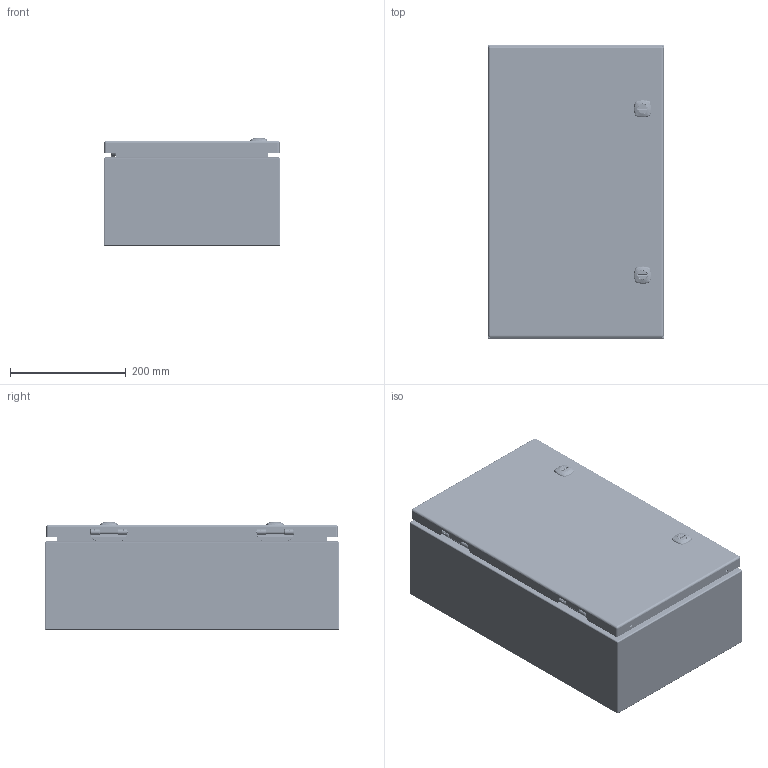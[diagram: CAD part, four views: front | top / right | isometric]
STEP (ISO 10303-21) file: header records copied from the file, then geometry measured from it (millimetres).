
FILE_DESCRIPTION(/* description */ ('5412ES 20" x 12" x 6" Assembly'),/* implementation_level */ '2;1');
FILE_NAME(/* name */ 'C:\Vault_Workspace\Inventor_Dwg\BoxCad\Result\5412ESB201206\e-mail\3D\5412ESB201206.stp',/* time_stamp */ '2022-03-11T15:10:08-05:00',/* author */ ('BoxCad'),/* organization */ (''),/* preprocessor_version */ 'ST-DEVELOPER v18.1',/* originating_system */ 'Autodesk Inventor 2020',/* authorisation */ '');
FILE_SCHEMA (('AUTOMOTIVE_DESIGN { 1 0 10303 214 3 1 1 }'));
Products named in the file (43): 5412ESB201206; 5412ESB201206B; 5412ESB201206B-P; STK-Q-16005; STUD_M6 x 16mm; STK-Q-07610; 881SP2012G; 881SP2012G-P; STK-Q-07310; 5412ESB201206C; 5412ESB201206C-P; 5412ESB201206G; STK-K-09800; STK-K-09800-2; STK-Q-33014; STK-Q-90398; STK-Q-40095; STK-Q-63410; STK-Q-16055; STK-Q-46020-20; STK-Q-07220-1; STK-Q-07220-2; STK-Q-07220-3; STK-Q-07220-4; STK-Q-07220-A; STK-Q-07220-B; STK-P-03820R; STK-S-00100; STK-A-880SCQ4-SL-1; STK-A-880SCQ4-SL-2; STK-Q-78110; STK-Q-78120; STK-Q-78145; STK-Q-03200; STK-Q-78125; STK-Q-78141; STK-Q-90390; STK-Q-78160; STK-Q-04050-07; STK-Q-04050-07-2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
Assembly tree (80 placements, depth 4):
  5412ESB201206
    5412ESB201206B
      5412ESB201206B-P
      STK-Q-16005  x4
      STK-P-03820R
      STUD_M6 x 16mm
    STK-Q-07610  x4
    881SP2012G
      881SP2012G-P
    STK-Q-07310  x4
    5412ESB201206C
      5412ESB201206C-P
      5412ESB201206G
      STK-K-09800
        STK-Q-33014
        STK-Q-90398
        STK-Q-40095  x2
        STK-Q-63410  x2
      STK-K-09800-2
        STK-Q-33014
        STK-Q-90398
        STK-Q-40095  x2
        STK-Q-63410  x2
      STK-Q-16055  x4
      STK-Q-46020-20  x2
      STK-Q-07220-1
        STK-Q-07220-A
        STK-Q-07220-B
      STK-Q-07220-2
        STK-Q-07220-A
        STK-Q-07220-B
      STK-Q-07220-3
        STK-Q-07220-A
        STK-Q-07220-B
      STK-Q-07220-4
        STK-Q-07220-A
        STK-Q-07220-B
      STK-P-03820R
      STK-S-00100
      STK-A-880SCQ4-SL-1
        STK-Q-78110
        STK-Q-78120
        STK-Q-78145
        STK-Q-03200
        STK-Q-78125
        STK-Q-78141
        STK-Q-90390
        STK-Q-78160
      STK-A-880SCQ4-SL-2
        STK-Q-78110
        STK-Q-78120
        STK-Q-78145
        STK-Q-03200
        STK-Q-78125
        STK-Q-78141
        STK-Q-90390
        STK-Q-78160
    STK-Q-04050-07
      STK-Q-04050-07-P
      STK-Q-04050-N
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Bounding box: 304.87 x 508 x 185.55 mm (x, y, z)
Volume: 1343944.2 mm3; surface area: 1712412.1 mm2
Topology: 64 solids, 64 shells, 9536 faces, 25580 edges, 16233 vertices
Faces by surface type: bspline 3404, plane 2705, cylinder 2452, torus 615, sphere 184, cone 176
Full cylindrical faces by diameter (mm): 0 x1, 0.75 x9, 0.762 x9, 1 x8, 1.1 x8, 3.2 x4, 4.191 x32, 4.5 x4, 4.521 x8, 4.75 x2, 4.85 x16, 4.95 x4, 5 x4, 5.1 x36, 5.156 x4, 5.6 x2, 5.9 x29, 6.015 x32, 6.65 x4, 6.8 x4, 6.85 x16, 7.3 x2, 7.366 x4, 7.9 x8, 8 x12, 8.382 x2, 9.5 x4, 9.6 x2, 9.906 x4, 10 x2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
Entity records: 151667 total; most frequent: CARTESIAN_POINT 63314, ORIENTED_EDGE 20278, DIRECTION 14573, EDGE_CURVE 10139, VERTEX_POINT 6411, AXIS2_PLACEMENT_3D 5358, EDGE_LOOP 4134, FACE_OUTER_BOUND 3897
